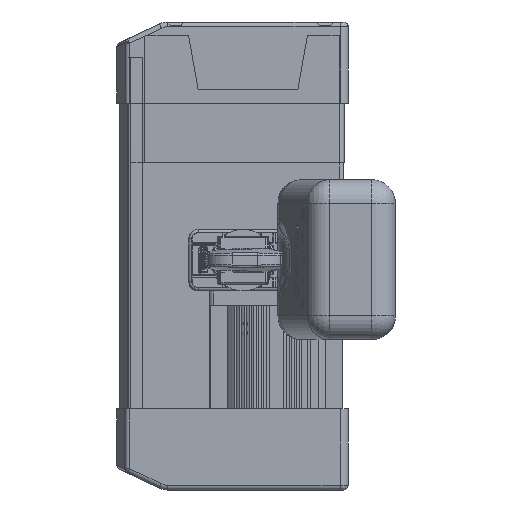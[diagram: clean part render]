
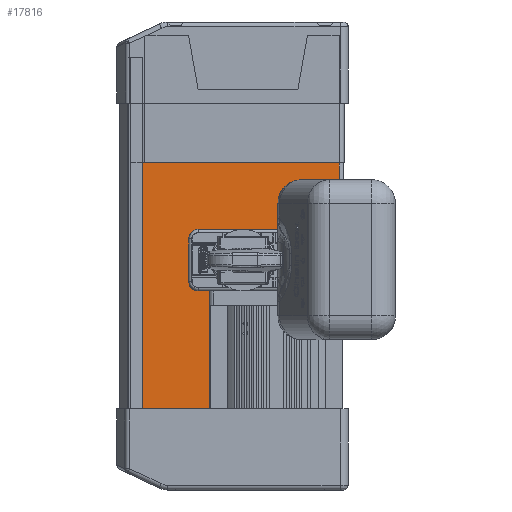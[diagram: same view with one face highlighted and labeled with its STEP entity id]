
A CAD part, front view. The second image highlights one B-rep face of the part: STEP entity #17816.
In plain terms, the highlighted planar face has unit normal (0, -1, 0).
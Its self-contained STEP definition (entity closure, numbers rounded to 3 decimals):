
#2881=LINE('',#95844,#6944);
#3360=LINE('',#97685,#7423);
#3476=LINE('',#98268,#7539);
#3497=LINE('',#98307,#7560);
#6944=VECTOR('',#69686,1.);
#7423=VECTOR('',#71257,1.);
#7539=VECTOR('',#71693,1.);
#7560=VECTOR('',#71748,1.);
#10103=B_SPLINE_CURVE_WITH_KNOTS('',3,(#95889,#95890,#95891,#95892),
 .UNSPECIFIED.,.F.,.F.,(4,4),(0.,1.),.UNSPECIFIED.);
#10152=B_SPLINE_CURVE_WITH_KNOTS('',3,(#98173,#98174,#98175,#98176),
 .UNSPECIFIED.,.F.,.F.,(4,4),(0.,1.),.UNSPECIFIED.);
#10153=B_SPLINE_CURVE_WITH_KNOTS('',3,(#98178,#98179,#98180,#98181),
 .UNSPECIFIED.,.F.,.F.,(4,4),(0.,1.),.UNSPECIFIED.);
#10155=B_SPLINE_CURVE_WITH_KNOTS('',3,(#98199,#98200,#98201,#98202),
 .UNSPECIFIED.,.F.,.F.,(4,4),(0.,1.),.UNSPECIFIED.);
#17816=ADVANCED_FACE('',(#22484),#20775,.T.);
#20775=PLANE('',#62572);
#22484=FACE_OUTER_BOUND('',#26066,.T.);
#26066=EDGE_LOOP('',(#34388,#34389,#34390,#34391,#34392,#34393,#34394,#34395));
#34388=ORIENTED_EDGE('',*,*,#53136,.T.);
#34389=ORIENTED_EDGE('',*,*,#53135,.T.);
#34390=ORIENTED_EDGE('',*,*,#52970,.T.);
#34391=ORIENTED_EDGE('',*,*,#53198,.T.);
#34392=ORIENTED_EDGE('',*,*,#52218,.T.);
#34393=ORIENTED_EDGE('',*,*,#53177,.T.);
#34394=ORIENTED_EDGE('',*,*,#53144,.T.);
#34395=ORIENTED_EDGE('',*,*,#52239,.T.);
#46354=VERTEX_POINT('',#95845);
#46355=VERTEX_POINT('',#95846);
#46371=VERTEX_POINT('',#95880);
#46374=VERTEX_POINT('',#95888);
#46854=VERTEX_POINT('',#97674);
#46859=VERTEX_POINT('',#97684);
#46979=VERTEX_POINT('',#98177);
#46983=VERTEX_POINT('',#98198);
#52218=EDGE_CURVE('',#46354,#46355,#2881,.T.);
#52239=EDGE_CURVE('',#46371,#46374,#10103,.T.);
#52970=EDGE_CURVE('',#46854,#46859,#3360,.T.);
#53135=EDGE_CURVE('',#46979,#46854,#10152,.T.);
#53136=EDGE_CURVE('',#46374,#46979,#10153,.T.);
#53144=EDGE_CURVE('',#46983,#46371,#10155,.T.);
#53177=EDGE_CURVE('',#46355,#46983,#3476,.T.);
#53198=EDGE_CURVE('',#46859,#46354,#3497,.T.);
#62572=AXIS2_PLACEMENT_3D('',#98308,#71749,#71750);
#69686=DIRECTION('',(1.,0.,0.));
#71257=DIRECTION('',(-1.,0.,0.));
#71693=DIRECTION('',(0.,0.,1.));
#71748=DIRECTION('',(0.,0.,-1.));
#71749=DIRECTION('',(0.,-1.,0.));
#71750=DIRECTION('',(-1.,0.,0.));
#95844=CARTESIAN_POINT('',(65.,-738.742,123.427));
#95845=CARTESIAN_POINT('',(-139.392,-738.742,123.427));
#95846=CARTESIAN_POINT('',(-70.,-738.742,123.427));
#95880=CARTESIAN_POINT('',(-65.001,-738.742,245.927));
#95888=CARTESIAN_POINT('',(65.,-738.742,245.927));
#95889=CARTESIAN_POINT('',(-65.001,-738.742,245.927));
#95890=CARTESIAN_POINT('',(-21.667,-738.742,245.927));
#95891=CARTESIAN_POINT('',(21.666,-738.742,245.927));
#95892=CARTESIAN_POINT('',(65.,-738.742,245.927));
#97674=CARTESIAN_POINT('',(65.,-738.742,378.927));
#97684=CARTESIAN_POINT('',(-139.392,-738.742,378.927));
#97685=CARTESIAN_POINT('',(-579.905,-738.742,378.927));
#98173=CARTESIAN_POINT('',(65.,-738.742,350.927));
#98174=CARTESIAN_POINT('',(65.,-738.742,360.261));
#98175=CARTESIAN_POINT('',(65.,-738.742,369.594));
#98176=CARTESIAN_POINT('',(65.,-738.742,378.927));
#98177=CARTESIAN_POINT('',(65.,-738.742,350.927));
#98178=CARTESIAN_POINT('',(65.,-738.742,245.927));
#98179=CARTESIAN_POINT('',(65.,-738.742,280.927));
#98180=CARTESIAN_POINT('',(65.,-738.742,315.927));
#98181=CARTESIAN_POINT('',(65.,-738.742,350.927));
#98198=CARTESIAN_POINT('',(-70.,-738.742,245.927));
#98199=CARTESIAN_POINT('',(-70.,-738.742,245.927));
#98200=CARTESIAN_POINT('',(-68.334,-738.742,245.927));
#98201=CARTESIAN_POINT('',(-66.667,-738.742,245.927));
#98202=CARTESIAN_POINT('',(-65.001,-738.742,245.927));
#98268=CARTESIAN_POINT('',(-70.,-738.742,186.927));
#98307=CARTESIAN_POINT('',(-139.392,-738.742,359.427));
#98308=CARTESIAN_POINT('',(65.,-738.742,245.927));
